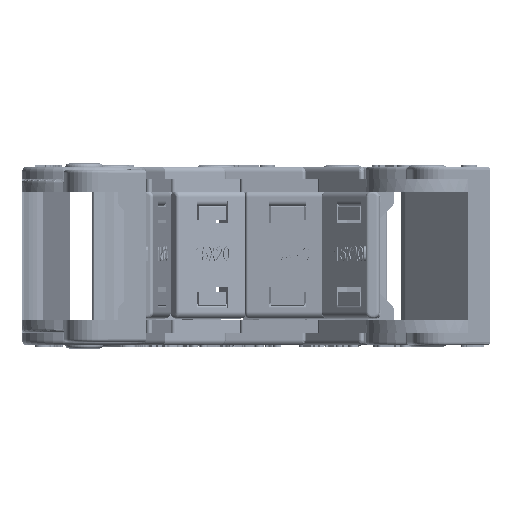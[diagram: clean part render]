
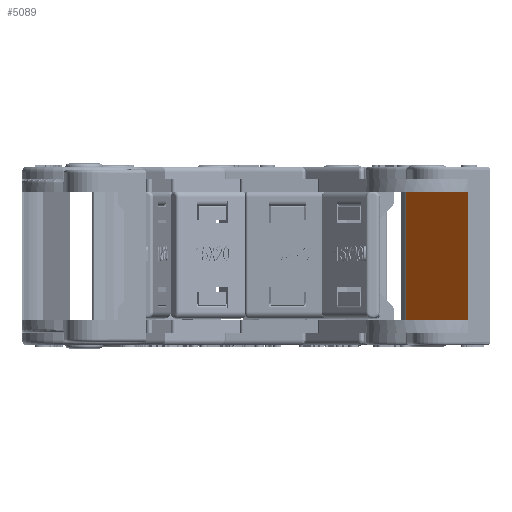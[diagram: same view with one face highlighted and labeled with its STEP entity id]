
A CAD part, left-side view. The second image highlights one B-rep face of the part: STEP entity #5089.
In plain terms, the highlighted planar face has unit normal (-0.667, 0.745, 0) as drawn and (0, 1, 0) by its records, which use the part's own axes.
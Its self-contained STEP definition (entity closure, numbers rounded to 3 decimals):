
#715 = CARTESIAN_POINT ( 'NONE',  ( -25.644, -7.95, -2. ) ) ;
#1556 = DIRECTION ( 'NONE',  ( 1., 0., 0. ) ) ;
#2687 = LINE ( 'NONE', #23745, #17794 ) ;
#3199 = VERTEX_POINT ( 'NONE', #35305 ) ;
#3889 = DIRECTION ( 'NONE',  ( 1., 0., 0. ) ) ;
#4310 = PLANE ( 'NONE',  #9075 ) ;
#5089 = ADVANCED_FACE ( 'NONE', ( #15381 ), #4310, .F. ) ;
#6065 = DIRECTION ( 'NONE',  ( 0., 0., 1. ) ) ;
#6211 = CARTESIAN_POINT ( 'NONE',  ( -5.983, -7.95, -2. ) ) ;
#7531 = VECTOR ( 'NONE', #6065, 1000. ) ;
#9075 = AXIS2_PLACEMENT_3D ( 'NONE', #24162, #27018, #9974 ) ;
#9219 = LINE ( 'NONE', #13100, #31874 ) ;
#9362 = CARTESIAN_POINT ( 'NONE',  ( -25.644, -7.95, -12. ) ) ;
#9611 = ORIENTED_EDGE ( 'NONE', *, *, #29232, .F. ) ;
#9802 = VERTEX_POINT ( 'NONE', #715 ) ;
#9974 = DIRECTION ( 'NONE',  ( 1., 0., 0. ) ) ;
#11667 = ORIENTED_EDGE ( 'NONE', *, *, #32685, .F. ) ;
#13100 = CARTESIAN_POINT ( 'NONE',  ( -5.983, -7.95, -2. ) ) ;
#15381 = FACE_OUTER_BOUND ( 'NONE', #19513, .T. ) ;
#16758 = LINE ( 'NONE', #9362, #24336 ) ;
#17106 = CARTESIAN_POINT ( 'NONE',  ( -5.983, -7.95, -12. ) ) ;
#17317 = VERTEX_POINT ( 'NONE', #6211 ) ;
#17794 = VECTOR ( 'NONE', #3889, 1000. ) ;
#19513 = EDGE_LOOP ( 'NONE', ( #27400, #9611, #11667, #31564 ) ) ;
#20786 = CARTESIAN_POINT ( 'NONE',  ( -25.644, -7.95, -22. ) ) ;
#21312 = EDGE_CURVE ( 'NONE', #9802, #17317, #9219, .T. ) ;
#23745 = CARTESIAN_POINT ( 'NONE',  ( -5.983, -7.95, -22. ) ) ;
#24162 = CARTESIAN_POINT ( 'NONE',  ( -5.983, -7.95, -12. ) ) ;
#24336 = VECTOR ( 'NONE', #29255, 1000. ) ;
#27018 = DIRECTION ( 'NONE',  ( 0., -1., 0. ) ) ;
#27400 = ORIENTED_EDGE ( 'NONE', *, *, #21312, .T. ) ;
#29232 = EDGE_CURVE ( 'NONE', #3199, #17317, #31057, .T. ) ;
#29255 = DIRECTION ( 'NONE',  ( 0., 0., 1. ) ) ;
#31057 = LINE ( 'NONE', #17106, #7531 ) ;
#31564 = ORIENTED_EDGE ( 'NONE', *, *, #35689, .T. ) ;
#31874 = VECTOR ( 'NONE', #1556, 1000. ) ;
#32685 = EDGE_CURVE ( 'NONE', #34587, #3199, #2687, .T. ) ;
#34587 = VERTEX_POINT ( 'NONE', #20786 ) ;
#35305 = CARTESIAN_POINT ( 'NONE',  ( -5.983, -7.95, -22. ) ) ;
#35689 = EDGE_CURVE ( 'NONE', #34587, #9802, #16758, .T. ) ;
